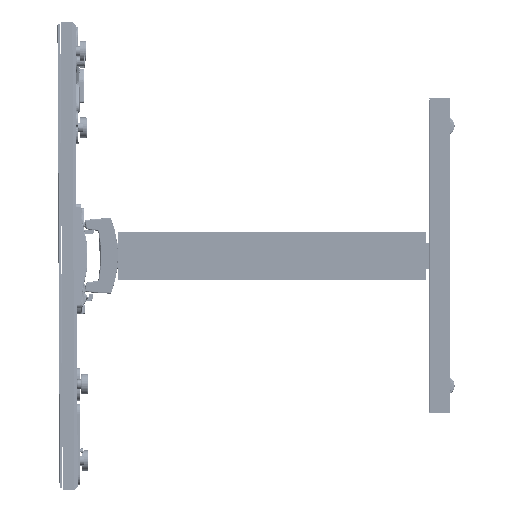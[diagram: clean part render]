
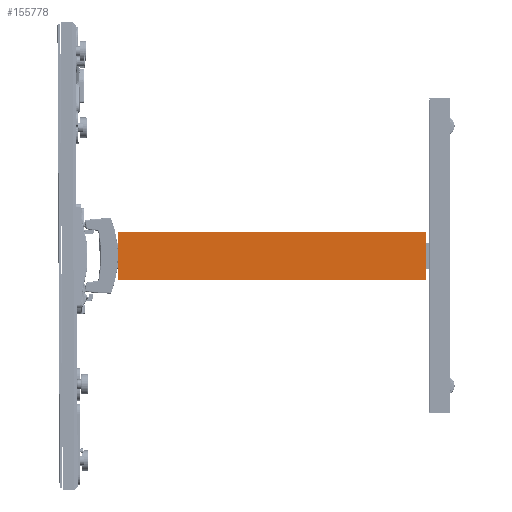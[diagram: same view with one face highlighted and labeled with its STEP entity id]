
A CAD part, left-side view. The second image highlights one B-rep face of the part: STEP entity #155778.
In plain terms, the highlighted planar face has unit normal (-1, 0, 0).
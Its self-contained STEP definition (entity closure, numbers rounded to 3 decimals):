
#12618=PLANE('',#168019);
#15299=FACE_OUTER_BOUND('',#25655,.T.);
#25655=EDGE_LOOP('',(#105498,#105499,#105500,#105501));
#36576=LINE('',#233962,#45979);
#36604=LINE('',#234050,#46007);
#36605=LINE('',#234052,#46008);
#36606=LINE('',#234053,#46009);
#45979=VECTOR('',#187745,0.394);
#46007=VECTOR('',#187843,0.394);
#46008=VECTOR('',#187844,0.394);
#46009=VECTOR('',#187845,0.394);
#64816=VERTEX_POINT('',#233959);
#64817=VERTEX_POINT('',#233961);
#64842=VERTEX_POINT('',#234049);
#64843=VERTEX_POINT('',#234051);
#79878=EDGE_CURVE('',#64816,#64817,#36576,.T.);
#79923=EDGE_CURVE('',#64842,#64816,#36604,.T.);
#79924=EDGE_CURVE('',#64843,#64842,#36605,.T.);
#79925=EDGE_CURVE('',#64817,#64843,#36606,.T.);
#105498=ORIENTED_EDGE('',*,*,#79923,.F.);
#105499=ORIENTED_EDGE('',*,*,#79924,.F.);
#105500=ORIENTED_EDGE('',*,*,#79925,.F.);
#105501=ORIENTED_EDGE('',*,*,#79878,.F.);
#155778=ADVANCED_FACE('',(#15299),#12618,.T.);
#168019=AXIS2_PLACEMENT_3D('',#234048,#187841,#187842);
#187745=DIRECTION('',(0.,0.,1.));
#187841=DIRECTION('center_axis',(-1.,0.,0.));
#187842=DIRECTION('ref_axis',(0.,0.,1.));
#187843=DIRECTION('',(0.,1.,0.));
#187844=DIRECTION('',(0.,0.,-1.));
#187845=DIRECTION('',(0.,-1.,0.));
#233959=CARTESIAN_POINT('',(-1.,11.844,-1.818));
#233961=CARTESIAN_POINT('',(-1.,11.844,1.818));
#233962=CARTESIAN_POINT('',(-1.,11.844,-1.828));
#234048=CARTESIAN_POINT('Origin',(-1.,0.,-1.828));
#234049=CARTESIAN_POINT('',(-1.,-11.844,-1.818));
#234050=CARTESIAN_POINT('',(-1.,0.,-1.818));
#234051=CARTESIAN_POINT('',(-1.,-11.844,1.818));
#234052=CARTESIAN_POINT('',(-1.,-11.844,-1.828));
#234053=CARTESIAN_POINT('',(-1.,0.,1.818));
